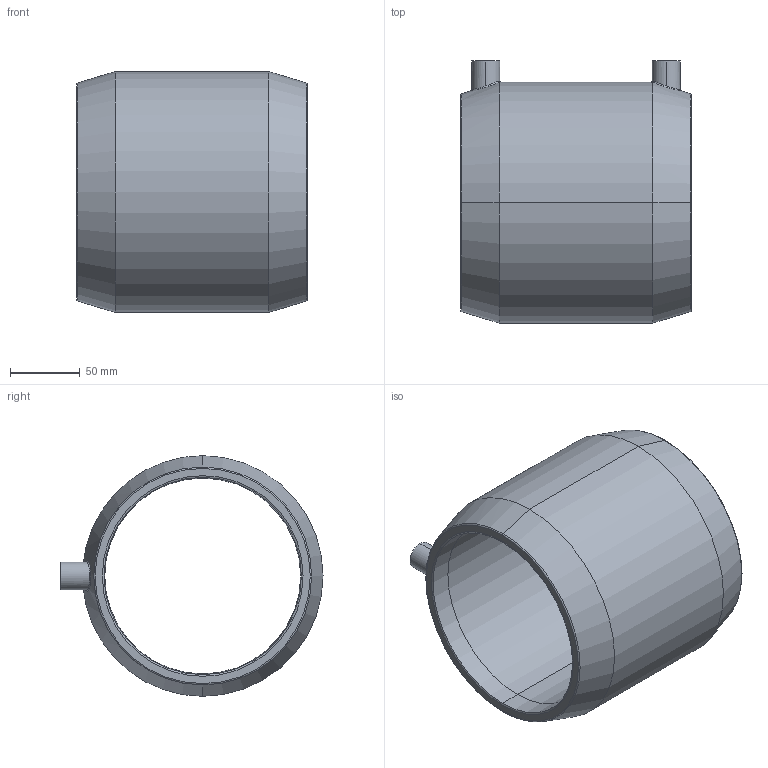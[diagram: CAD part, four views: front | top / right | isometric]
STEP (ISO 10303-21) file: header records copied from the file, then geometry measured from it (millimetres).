
FILE_DESCRIPTION (( 'STEP AP214' ), '1' );
FILE_NAME ('CBKHA140.STEP', '2018-09-19T14:18:42', ( '' ), ( '' ), 'SwSTEP 2.0', 'SolidWorks 2017', '' );
FILE_SCHEMA (( 'AUTOMOTIVE_DESIGN' ));
Length unit declared in the file: millimetre
Products named in the file (1): CBKHA140
Bounding box: 165.01 x 187.29 x 172 mm (x, y, z)
Volume: 1177610 mm3; surface area: 171487 mm2
Topology: 1 solids, 1 shells, 48 faces, 106 edges, 64 vertices
Faces by surface type: cylinder 16, cone 16, plane 8, torus 4, bspline 4
Entity records: 2401 total; most frequent: CARTESIAN_POINT 1204, DIRECTION 230, ORIENTED_EDGE 212, EDGE_CURVE 106, AXIS2_PLACEMENT_3D 99, VERTEX_POINT 64, CIRCLE 54, EDGE_LOOP 54
